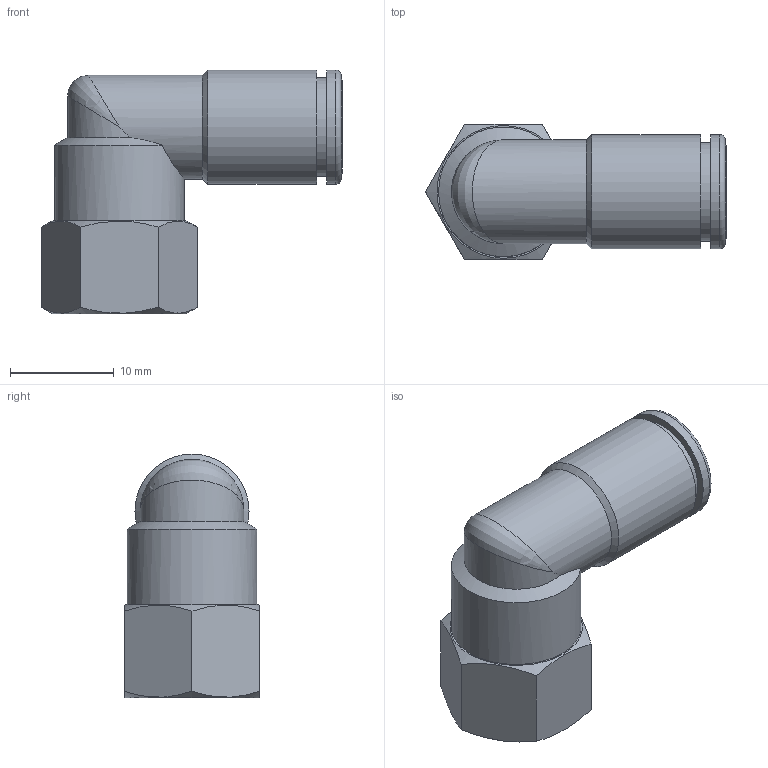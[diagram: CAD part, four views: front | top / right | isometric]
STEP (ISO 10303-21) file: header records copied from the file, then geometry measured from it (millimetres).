
FILE_DESCRIPTION(('Bauteilbeschreibung','HiCAD-Model','HiCAD-STEP-TRANSLATION','Bauteilbeschreibung'),'2;1');
FILE_NAME('B:/ABGLEICH/ZEICHNUNGEN/STEP FÜR INTERNET/STEP/IPSO 022-F/202803_IPSO_022-F_6_1-8.STP','2012-01-27T09:44:30+00:00',('Konstrukteur'),('Konstrukteur Firma GmbH'),' HiCAD neXt 2008, Step 3.1.1401.2J ','HiCAD neXt 2008','confidential');
FILE_SCHEMA(('AUTOMOTIVE_DESIGN { 1 2 10303 214 0 1 1 1 }'));
Length unit declared in the file: millimetre
Products named in the file (6): A02803_IPSO_022_F_6_1_8; DR6_1_NEU; R202203_N2; A14622_N2_GEW___1_8_1_8; A146220N20GEW0001080108; G 1_8
Assembly tree (5 placements, depth 3):
  A02803_IPSO_022_F_6_1_8
    DR6_1_NEU
    R202203_N2
    A14622_N2_GEW___1_8_1_8
    A146220N20GEW0001080108
      G 1_8
Bounding box: 29.01 x 13 x 23.5 mm (x, y, z)
Volume: 2646.7 mm3; surface area: 3930.1 mm2
Topology: 4 solids, 4 shells, 64 faces, 137 edges, 82 vertices
Faces by surface type: cylinder 23, cone 21, plane 18, torus 1, bspline 1
Full cylindrical faces by diameter (mm): 4 x1, 5.5 x1, 6 x1, 6.1 x1, 6.2 x1, 8.3 x1, 8.566 x2, 9 x3, 9.5 x1, 9.6 x1, 9.7 x1, 9.728 x2, 10 x1, 10.1 x2, 11 x2, 12.5 x1
Entity records: 3041 total; most frequent: CARTESIAN_POINT 1382, DIRECTION 264, ORIENTED_EDGE 160, AXIS2_PLACEMENT_3D 129, EDGE_LOOP 119, EDGE_CURVE 80, COLOUR_RGB 78, PRESENTATION_STYLE_ASSIGNMENT 78
